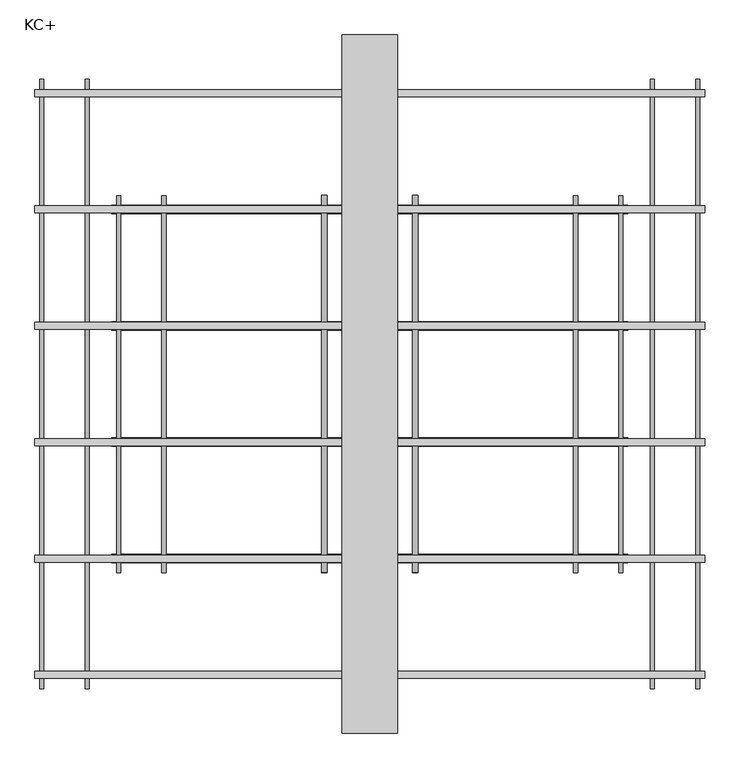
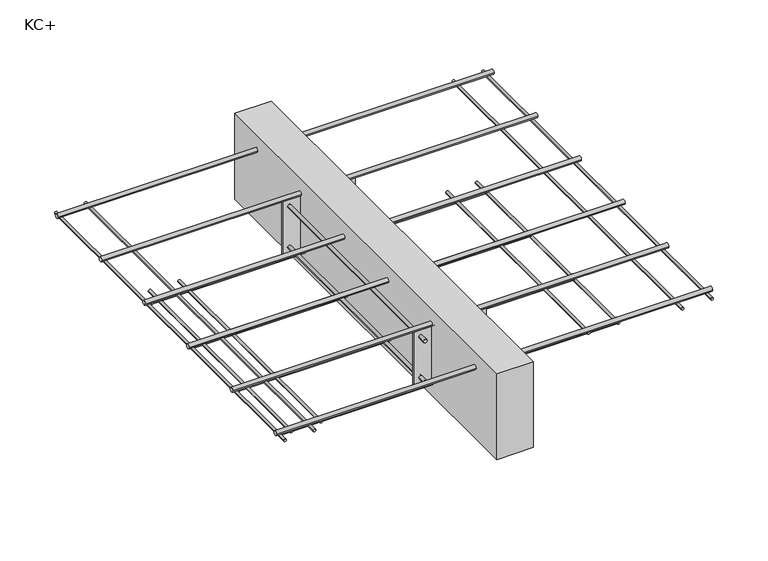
"""IFC4 building model written with IfcOpenShell, lengths in millimetres: fastener geometry, ACINOXplus_Typenreihe_K : KC+."""

import ifcopenshell
import ifcopenshell.guid

model = None  # the IFC model being written
_history = None  # IfcOwnerHistory: only IFC2X3 demands one
_inside = {}  # id of a spatial element -> (the spatial element, [elements in it])
_under = {}  # id of a project, library or spatial element -> (it, [spatial elements below it])
_declared = {}  # id of a project -> (the project, [libraries it declares])
_typed = {}  # id of a type object -> (the type object, [elements of that type])
_made_of = {}  # id of a material, layer set ... -> (it, [elements and type objects made of it])


def new_model(schema):
    """Start an empty IFC model of exactly this schema.

    Asked for "IFC4X3", IfcOpenShell would pick the latest addendum, in which some entities
    have other attributes; the version numbers below select the first issue.
    IFC2X3 requires an IfcOwnerHistory on every rooted entity: one is made here for all.
    """
    global model, _history
    if schema == "IFC4X3":
        model = ifcopenshell.file(schema_version=(4, 3, 0, 0))
    else:
        model = ifcopenshell.file(schema=schema)
    _inside.clear()
    _under.clear()
    _declared.clear()
    _typed.clear()
    _made_of.clear()
    _history = None
    if model.schema == "IFC2X3":
        org = make("IfcOrganization", Name="unknown")
        user = make(
            "IfcPersonAndOrganization",
            ThePerson=make("IfcPerson", FamilyName="unknown"),
            TheOrganization=org,
        )
        app = make(
            "IfcApplication",
            ApplicationDeveloper=org,
            Version="unknown",
            ApplicationFullName="unknown",
            ApplicationIdentifier="unknown",
        )
        _history = make(
            "IfcOwnerHistory",
            OwningUser=user,
            OwningApplication=app,
            ChangeAction="ADDED",
            CreationDate=0,
        )
    return model


def make(cls, **values):
    """One entity of the class cls with the attributes given. An attribute that is None is left unset."""
    return model.create_entity(
        cls, **{name: value for name, value in values.items() if value is not None}
    )


def rooted(cls, **values):
    """An entity with a GlobalId (a new one), such as an element, a storey or a relation."""
    return make(cls, GlobalId=ifcopenshell.guid.new(), OwnerHistory=_history, **values)


def si_unit(unit_type, name, prefix=None):
    """IfcSIUnit, for example si_unit("LENGTHUNIT", "METRE", prefix="MILLI")."""
    return make("IfcSIUnit", UnitType=unit_type, Prefix=prefix, Name=name)


def assignment(units):
    """IfcUnitAssignment: the units of a project."""
    return None if units is None else make("IfcUnitAssignment", Units=units)


def point(xyz):
    """IfcCartesianPoint."""
    return None if xyz is None else make("IfcCartesianPoint", Coordinates=xyz)


def direction(xyz):
    """IfcDirection."""
    return None if xyz is None else make("IfcDirection", DirectionRatios=xyz)


def frame(location, z_axis=None, x_axis=None):
    """IfcAxis2Placement3D, a coordinate frame: its origin and axes. An axis left out is left unset."""
    return make(
        "IfcAxis2Placement3D",
        Location=point(location),
        Axis=direction(z_axis),
        RefDirection=direction(x_axis),
    )


def frame_2d(location, x_axis=None):
    """IfcAxis2Placement2D, a coordinate frame in the plane: its origin and x axis."""
    return make(
        "IfcAxis2Placement2D", Location=point(location), RefDirection=direction(x_axis)
    )


def origin():
    """The frame at (0, 0, 0) with its axes left unset."""
    return frame((0.0, 0.0, 0.0))


def place(relative_to, where):
    """IfcLocalPlacement: puts the frame where relative to a parent placement (None: the world)."""
    return make(
        "IfcLocalPlacement", PlacementRelTo=relative_to, RelativePlacement=where
    )


def context(
    kind, dimensions, precision=None, world=None, true_north=None, identifier=None
):
    """IfcGeometricRepresentationContext, for example the 3D "Model" context."""
    return make(
        "IfcGeometricRepresentationContext",
        ContextIdentifier=identifier,
        ContextType=kind,
        CoordinateSpaceDimension=dimensions,
        Precision=precision,
        WorldCoordinateSystem=world,
        TrueNorth=true_north,
    )


def project(units=None, contexts=None):
    """IfcProject with its units and contexts."""
    return rooted(
        "IfcProject",
        Name="project",
        RepresentationContexts=contexts,
        UnitsInContext=assignment(units),
    )


def spatial(cls, under=None, at=None, **own):
    """A site, building, storey or space (cls), placed at a placement, below another one or the project."""
    s = rooted(cls, ObjectPlacement=at, **own)
    if under is not None:
        _under.setdefault(under.id(), (under, []))[1].append(s)
    return s


def polyline(points):
    """IfcPolyline through the points."""
    return make("IfcPolyline", Points=[point(p) for p in points])


def circle_curve(where, radius):
    """IfcCircle in the frame where."""
    return make("IfcCircle", Position=where, Radius=radius)


def trimmed(basis, trim1, trim2, sense, master):
    """IfcTrimmedCurve: the piece of a basis curve between two trims."""
    return make(
        "IfcTrimmedCurve",
        BasisCurve=basis,
        Trim1=trim1,
        Trim2=trim2,
        SenseAgreement=sense,
        MasterRepresentation=master,
    )


def segment(curve, same_sense, transition):
    """IfcCompositeCurveSegment."""
    return make(
        "IfcCompositeCurveSegment",
        Transition=transition,
        SameSense=same_sense,
        ParentCurve=curve,
    )


def composite_curve(segments, self_intersect=None):
    """IfcCompositeCurve: segments joined end to end."""
    return make("IfcCompositeCurve", Segments=segments, SelfIntersect=self_intersect)


def outline(outer, holes=None, kind="AREA"):
    """IfcArbitraryClosedProfileDef: a profile drawn as a closed curve; with holes, ...WithVoids."""
    if holes is None:
        return make("IfcArbitraryClosedProfileDef", ProfileType=kind, OuterCurve=outer)
    return make(
        "IfcArbitraryProfileDefWithVoids",
        ProfileType=kind,
        OuterCurve=outer,
        InnerCurves=holes,
    )


def extrude(swept, where, along, depth):
    """IfcExtrudedAreaSolid: the profile swept, set in the frame where, extruded along a direction by depth."""
    return make(
        "IfcExtrudedAreaSolid",
        SweptArea=swept,
        Position=where,
        ExtrudedDirection=direction(along),
        Depth=depth,
    )


def shape(context_of_items, identifier, shape_type, items):
    """IfcShapeRepresentation: the items that make up one representation, for example the "Body"."""
    return make(
        "IfcShapeRepresentation",
        ContextOfItems=context_of_items,
        RepresentationIdentifier=identifier,
        RepresentationType=shape_type,
        Items=items,
    )


def source(mapping_origin, context_of_items, identifier, shape_type, items):
    """IfcRepresentationMap: a shape defined once, which mapped items show again and again."""
    return make(
        "IfcRepresentationMap",
        MappingOrigin=mapping_origin,
        MappedRepresentation=shape(context_of_items, identifier, shape_type, items),
    )


def transform(
    local_origin,
    x_axis=None,
    y_axis=None,
    z_axis=None,
    scale=None,
    scale2=None,
    scale3=None,
    uniform=True,
):
    """IfcCartesianTransformationOperator3D, or its non-uniform kind. x_axis, y_axis, z_axis: its Axis1, 2, 3."""
    if uniform:
        return make(
            "IfcCartesianTransformationOperator3D",
            Axis1=direction(x_axis),
            Axis2=direction(y_axis),
            LocalOrigin=point(local_origin),
            Scale=scale,
            Axis3=direction(z_axis),
        )
    return make(
        "IfcCartesianTransformationOperator3DnonUniform",
        Axis1=direction(x_axis),
        Axis2=direction(y_axis),
        LocalOrigin=point(local_origin),
        Scale=scale,
        Axis3=direction(z_axis),
        Scale2=scale2,
        Scale3=scale3,
    )


def mapped(mapping_source, mapping_target):
    """IfcMappedItem: shows the shape of a source again, moved by a transform."""
    return make(
        "IfcMappedItem", MappingSource=mapping_source, MappingTarget=mapping_target
    )


def made_of(thing, what):
    """Note that an element or type object is made of a material, layer set ...; save() writes the relation."""
    if what is not None:
        _made_of.setdefault(what.id(), (what, []))[1].append(thing)
    return thing


def element(
    cls,
    number,
    at=None,
    inside=None,
    cuts=None,
    type_object=None,
    material=None,
    context=None,
    identifier="Body",
    shape_type=None,
    held_by="IfcProductDefinitionShape",
    body=None,
    shapes=None,
    **own,
):
    """One element of the class cls, such as IfcWall. Its Tag is "e" and its number.

    at: its placement. inside: the storey or other place that contains it. cuts: it is an
    opening in that element (IfcRelVoidsElement). A single representation is given by context,
    identifier, shape_type and body (its items); several are given by shapes. held_by: the class
    of the entity that holds the representations. save() writes the other relations.
    """
    e = rooted(cls, Tag="e%d" % number, ObjectPlacement=at, **own)
    if body is not None:
        shapes = [shape(context, identifier, shape_type, body)]
    if shapes is not None:
        e.Representation = make(held_by, Representations=shapes)
    if inside is not None:
        _inside.setdefault(inside.id(), (inside, []))[1].append(e)
    if cuts is not None:
        rooted(
            "IfcRelVoidsElement", RelatingBuildingElement=cuts, RelatedOpeningElement=e
        )
    if type_object is not None:
        _typed.setdefault(type_object.id(), (type_object, []))[1].append(e)
    return made_of(e, material)


def aggregate(whole, parts):
    """IfcRelAggregates: a whole, such as a stair, and the parts it consists of."""
    return rooted("IfcRelAggregates", RelatingObject=whole, RelatedObjects=parts)


def save(model, path):
    """Write the relations noted so far, then the file.

    IfcRelAggregates (storeys below a building ...), IfcRelContainedInSpatialStructure (elements
    in a storey), IfcRelDefinesByType, IfcRelAssociatesMaterial and IfcRelDeclares: one each for
    every whole, place, type object, material and project.
    """
    for whole, parts in _under.values():
        aggregate(whole, parts)
    for where, things in _inside.values():
        rooted(
            "IfcRelContainedInSpatialStructure",
            RelatedElements=things,
            RelatingStructure=where,
        )
    for kind, things in _typed.values():
        rooted("IfcRelDefinesByType", RelatedObjects=things, RelatingType=kind)
    for what, things in _made_of.values():
        rooted("IfcRelAssociatesMaterial", RelatedObjects=things, RelatingMaterial=what)
    for by, libraries in _declared.values():
        rooted("IfcRelDeclares", RelatingContext=by, RelatedDefinitions=libraries)
    model.write(path)


def kc_55e3709e(model_context):
    return source(origin(), model_context, "Body", "SweptSolid", [
        extrude(outline(polyline([(40.0, 500.0), (40.0, -500.0), (-40.0, -500.0), (-40.0, 500.0), (40.0, 500.0)])), frame((0.0, 0.0, -200.0), z_axis=(0.0, 0.0, 1.0), x_axis=(1.0, 0.0, 0.0)), (0.0, 0.0, 1.0), 200.0),
        extrude(outline(polyline([(80.0, -248.5), (80.0, -251.5), (-80.0, -251.5), (-80.0, -248.5), (80.0, -248.5)])), frame((0.0, 0.0, -165.0), z_axis=(0.0, 0.0, 1.0), x_axis=(1.0, 0.0, 0.0)), (0.0, 0.0, 1.0), 125.0),
        extrude(outline(polyline([(80.0, 251.5), (80.0, 248.5), (-80.0, 248.5), (-80.0, 251.5), (80.0, 251.5)])), frame((0.0, 0.0, -165.0), z_axis=(0.0, 0.0, 1.0), x_axis=(1.0, 0.0, 0.0)), (0.0, 0.0, 1.0), 125.0),
        extrude(outline(composite_curve([segment(trimmed(circle_curve(frame_2d((-150.0, -65.0)), 4.0), [point((-150.0, -61.0))], [point((-150.0, -69.0))], False, "CARTESIAN"), True, "CONTINUOUS"), segment(trimmed(circle_curve(frame_2d((-150.0, -65.0)), 4.0), [point((-150.0, -69.0))], [point((-150.0, -61.0))], False, "CARTESIAN"), True, "CONTINUOUS")], self_intersect=False)), frame((0.0, -270.0, 0.0), z_axis=(0.0, 1.0, 0.0), x_axis=(0.0, 0.0, 1.0)), (0.0, 0.0, 1.0), 18.5),
        extrude(outline(composite_curve([segment(trimmed(circle_curve(frame_2d((-150.0, -65.0)), 4.0), [point((-150.0, -69.0))], [point((-150.0, -61.0))], False, "CARTESIAN"), True, "CONTINUOUS"), segment(trimmed(circle_curve(frame_2d((-150.0, -65.0)), 4.0), [point((-150.0, -61.0))], [point((-150.0, -69.0))], False, "CARTESIAN"), True, "CONTINUOUS")], self_intersect=False)), frame((0.0, -248.5, 0.0), z_axis=(0.0, 1.0, 0.0), x_axis=(0.0, 0.0, 1.0)), (0.0, 0.0, 1.0), 497.0),
        extrude(outline(composite_curve([segment(trimmed(circle_curve(frame_2d((-150.0, -65.0)), 4.0), [point((-150.0, -69.0))], [point((-150.0, -61.0))], False, "CARTESIAN"), True, "CONTINUOUS"), segment(trimmed(circle_curve(frame_2d((-150.0, -65.0)), 4.0), [point((-150.0, -61.0))], [point((-150.0, -69.0))], False, "CARTESIAN"), True, "CONTINUOUS")], self_intersect=False)), frame((0.0, 251.5, 0.0), z_axis=(0.0, 1.0, 0.0), x_axis=(0.0, 0.0, 1.0)), (0.0, 0.0, 1.0), 18.5),
        extrude(outline(composite_curve([segment(trimmed(circle_curve(frame_2d((-150.0, 65.0)), 4.0), [point((-150.0, 69.0))], [point((-150.0, 61.0))], False, "CARTESIAN"), True, "CONTINUOUS"), segment(trimmed(circle_curve(frame_2d((-150.0, 65.0)), 4.0), [point((-150.0, 61.0))], [point((-150.0, 69.0))], False, "CARTESIAN"), True, "CONTINUOUS")], self_intersect=False)), frame((0.0, -270.0, 0.0), z_axis=(0.0, 1.0, 0.0), x_axis=(0.0, 0.0, 1.0)), (0.0, 0.0, 1.0), 18.5),
        extrude(outline(composite_curve([segment(trimmed(circle_curve(frame_2d((-150.0, 65.0)), 4.0), [point((-150.0, 61.0))], [point((-150.0, 69.0))], False, "CARTESIAN"), True, "CONTINUOUS"), segment(trimmed(circle_curve(frame_2d((-150.0, 65.0)), 4.0), [point((-150.0, 69.0))], [point((-150.0, 61.0))], False, "CARTESIAN"), True, "CONTINUOUS")], self_intersect=False)), frame((0.0, -248.5, 0.0), z_axis=(0.0, 1.0, 0.0), x_axis=(0.0, 0.0, 1.0)), (0.0, 0.0, 1.0), 497.0),
        extrude(outline(composite_curve([segment(trimmed(circle_curve(frame_2d((-150.0, 65.0)), 4.0), [point((-150.0, 61.0))], [point((-150.0, 69.0))], False, "CARTESIAN"), True, "CONTINUOUS"), segment(trimmed(circle_curve(frame_2d((-150.0, 65.0)), 4.0), [point((-150.0, 69.0))], [point((-150.0, 61.0))], False, "CARTESIAN"), True, "CONTINUOUS")], self_intersect=False)), frame((0.0, 251.5, 0.0), z_axis=(0.0, 1.0, 0.0), x_axis=(0.0, 0.0, 1.0)), (0.0, 0.0, 1.0), 18.5),
        extrude(outline(composite_curve([segment(trimmed(circle_curve(frame_2d((-55.0, -65.0)), 4.0), [point((-55.0, -61.0))], [point((-55.0, -69.0))], False, "CARTESIAN"), True, "CONTINUOUS"), segment(trimmed(circle_curve(frame_2d((-55.0, -65.0)), 4.0), [point((-55.0, -69.0))], [point((-55.0, -61.0))], False, "CARTESIAN"), True, "CONTINUOUS")], self_intersect=False)), frame((0.0, -270.0, 0.0), z_axis=(0.0, 1.0, 0.0), x_axis=(0.0, 0.0, 1.0)), (0.0, 0.0, 1.0), 18.5),
        extrude(outline(composite_curve([segment(trimmed(circle_curve(frame_2d((-55.0, -65.0)), 4.0), [point((-55.0, -69.0))], [point((-55.0, -61.0))], False, "CARTESIAN"), True, "CONTINUOUS"), segment(trimmed(circle_curve(frame_2d((-55.0, -65.0)), 4.0), [point((-55.0, -61.0))], [point((-55.0, -69.0))], False, "CARTESIAN"), True, "CONTINUOUS")], self_intersect=False)), frame((0.0, -248.5, 0.0), z_axis=(0.0, 1.0, 0.0), x_axis=(0.0, 0.0, 1.0)), (0.0, 0.0, 1.0), 497.0),
        extrude(outline(composite_curve([segment(trimmed(circle_curve(frame_2d((-55.0, -65.0)), 4.0), [point((-55.0, -69.0))], [point((-55.0, -61.0))], False, "CARTESIAN"), True, "CONTINUOUS"), segment(trimmed(circle_curve(frame_2d((-55.0, -65.0)), 4.0), [point((-55.0, -61.0))], [point((-55.0, -69.0))], False, "CARTESIAN"), True, "CONTINUOUS")], self_intersect=False)), frame((0.0, 251.5, 0.0), z_axis=(0.0, 1.0, 0.0), x_axis=(0.0, 0.0, 1.0)), (0.0, 0.0, 1.0), 18.5),
        extrude(outline(composite_curve([segment(trimmed(circle_curve(frame_2d((-55.0, 65.0)), 4.0), [point((-55.0, 69.0))], [point((-55.0, 61.0))], False, "CARTESIAN"), True, "CONTINUOUS"), segment(trimmed(circle_curve(frame_2d((-55.0, 65.0)), 4.0), [point((-55.0, 61.0))], [point((-55.0, 69.0))], False, "CARTESIAN"), True, "CONTINUOUS")], self_intersect=False)), frame((0.0, -270.0, 0.0), z_axis=(0.0, 1.0, 0.0), x_axis=(0.0, 0.0, 1.0)), (0.0, 0.0, 1.0), 18.5),
        extrude(outline(composite_curve([segment(trimmed(circle_curve(frame_2d((-55.0, 65.0)), 4.0), [point((-55.0, 61.0))], [point((-55.0, 69.0))], False, "CARTESIAN"), True, "CONTINUOUS"), segment(trimmed(circle_curve(frame_2d((-55.0, 65.0)), 4.0), [point((-55.0, 69.0))], [point((-55.0, 61.0))], False, "CARTESIAN"), True, "CONTINUOUS")], self_intersect=False)), frame((0.0, -248.5, 0.0), z_axis=(0.0, 1.0, 0.0), x_axis=(0.0, 0.0, 1.0)), (0.0, 0.0, 1.0), 497.0),
        extrude(outline(composite_curve([segment(trimmed(circle_curve(frame_2d((-55.0, 65.0)), 4.0), [point((-55.0, 61.0))], [point((-55.0, 69.0))], False, "CARTESIAN"), True, "CONTINUOUS"), segment(trimmed(circle_curve(frame_2d((-55.0, 65.0)), 4.0), [point((-55.0, 69.0))], [point((-55.0, 61.0))], False, "CARTESIAN"), True, "CONTINUOUS")], self_intersect=False)), frame((0.0, 251.5, 0.0), z_axis=(0.0, 1.0, 0.0), x_axis=(0.0, 0.0, 1.0)), (0.0, 0.0, 1.0), 18.5),
        extrude(outline(composite_curve([segment(trimmed(circle_curve(frame_2d((83.3333333, -171.0)), 6.0), [point((77.3333333, -171.0))], [point((89.3333333, -171.0))], False, "CARTESIAN"), True, "CONTINUOUS"), segment(trimmed(circle_curve(frame_2d((83.3333333, -171.0)), 6.0), [point((89.3333333, -171.0))], [point((77.3333333, -171.0))], False, "CARTESIAN"), True, "CONTINUOUS")], self_intersect=False)), frame((-370.0, 0.0, 0.0), z_axis=(1.0, 0.0, 0.0), x_axis=(0.0, 1.0, 0.0)), (0.0, 0.0, 1.0), 740.0),
        extrude(outline(composite_curve([segment(trimmed(circle_curve(frame_2d((-83.3333333, -171.0)), 6.0), [point((-89.3333333, -171.0))], [point((-77.3333333, -171.0))], False, "CARTESIAN"), True, "CONTINUOUS"), segment(trimmed(circle_curve(frame_2d((-83.3333333, -171.0)), 6.0), [point((-77.3333333, -171.0))], [point((-89.3333333, -171.0))], False, "CARTESIAN"), True, "CONTINUOUS")], self_intersect=False)), frame((-370.0, 0.0, 0.0), z_axis=(1.0, 0.0, 0.0), x_axis=(0.0, 1.0, 0.0)), (0.0, 0.0, 1.0), 740.0),
        extrude(outline(composite_curve([segment(trimmed(circle_curve(frame_2d((250.0, -171.0)), 6.0), [point((244.0, -171.0))], [point((256.0, -171.0))], False, "CARTESIAN"), True, "CONTINUOUS"), segment(trimmed(circle_curve(frame_2d((250.0, -171.0)), 6.0), [point((256.0, -171.0))], [point((244.0, -171.0))], False, "CARTESIAN"), True, "CONTINUOUS")], self_intersect=False)), frame((-370.0, 0.0, 0.0), z_axis=(1.0, 0.0, 0.0), x_axis=(0.0, 1.0, 0.0)), (0.0, 0.0, 1.0), 740.0),
        extrude(outline(composite_curve([segment(trimmed(circle_curve(frame_2d((-250.0, -171.0)), 6.0), [point((-256.0, -171.0))], [point((-244.0, -171.0))], False, "CARTESIAN"), True, "CONTINUOUS"), segment(trimmed(circle_curve(frame_2d((-250.0, -171.0)), 6.0), [point((-244.0, -171.0))], [point((-256.0, -171.0))], False, "CARTESIAN"), True, "CONTINUOUS")], self_intersect=False)), frame((-370.0, 0.0, 0.0), z_axis=(1.0, 0.0, 0.0), x_axis=(0.0, 1.0, 0.0)), (0.0, 0.0, 1.0), 740.0),
        extrude(outline(composite_curve([segment(trimmed(circle_curve(frame_2d((83.3333333, -35.0)), 5.0), [point((78.3333333, -35.0))], [point((88.3333333, -35.0))], False, "CARTESIAN"), True, "CONTINUOUS"), segment(trimmed(circle_curve(frame_2d((83.3333333, -35.0)), 5.0), [point((88.3333333, -35.0))], [point((78.3333333, -35.0))], False, "CARTESIAN"), True, "CONTINUOUS")], self_intersect=False)), frame((-480.0, 0.0, 0.0), z_axis=(1.0, 0.0, 0.0), x_axis=(0.0, 1.0, 0.0)), (0.0, 0.0, 1.0), 960.0),
        extrude(outline(composite_curve([segment(trimmed(circle_curve(frame_2d((-83.3333333, -35.0)), 5.0), [point((-88.3333333, -35.0))], [point((-78.3333333, -35.0))], False, "CARTESIAN"), True, "CONTINUOUS"), segment(trimmed(circle_curve(frame_2d((-83.3333333, -35.0)), 5.0), [point((-78.3333333, -35.0))], [point((-88.3333333, -35.0))], False, "CARTESIAN"), True, "CONTINUOUS")], self_intersect=False)), frame((-480.0, 0.0, 0.0), z_axis=(1.0, 0.0, 0.0), x_axis=(0.0, 1.0, 0.0)), (0.0, 0.0, 1.0), 960.0),
        extrude(outline(composite_curve([segment(trimmed(circle_curve(frame_2d((250.0, -35.0)), 5.0), [point((245.0, -35.0))], [point((255.0, -35.0))], False, "CARTESIAN"), True, "CONTINUOUS"), segment(trimmed(circle_curve(frame_2d((250.0, -35.0)), 5.0), [point((255.0, -35.0))], [point((245.0, -35.0))], False, "CARTESIAN"), True, "CONTINUOUS")], self_intersect=False)), frame((-480.0, 0.0, 0.0), z_axis=(1.0, 0.0, 0.0), x_axis=(0.0, 1.0, 0.0)), (0.0, 0.0, 1.0), 960.0),
        extrude(outline(composite_curve([segment(trimmed(circle_curve(frame_2d((416.6666667, -35.0)), 5.0), [point((411.6666667, -35.0))], [point((421.6666667, -35.0))], False, "CARTESIAN"), True, "CONTINUOUS"), segment(trimmed(circle_curve(frame_2d((416.6666667, -35.0)), 5.0), [point((421.6666667, -35.0))], [point((411.6666667, -35.0))], False, "CARTESIAN"), True, "CONTINUOUS")], self_intersect=False)), frame((-480.0, 0.0, 0.0), z_axis=(1.0, 0.0, 0.0), x_axis=(0.0, 1.0, 0.0)), (0.0, 0.0, 1.0), 960.0),
        extrude(outline(composite_curve([segment(trimmed(circle_curve(frame_2d((-250.0, -35.0)), 5.0), [point((-255.0, -35.0))], [point((-245.0, -35.0))], False, "CARTESIAN"), True, "CONTINUOUS"), segment(trimmed(circle_curve(frame_2d((-250.0, -35.0)), 5.0), [point((-245.0, -35.0))], [point((-255.0, -35.0))], False, "CARTESIAN"), True, "CONTINUOUS")], self_intersect=False)), frame((-480.0, 0.0, 0.0), z_axis=(1.0, 0.0, 0.0), x_axis=(0.0, 1.0, 0.0)), (0.0, 0.0, 1.0), 960.0),
        extrude(outline(composite_curve([segment(trimmed(circle_curve(frame_2d((-416.6666667, -35.0)), 5.0), [point((-421.6666667, -35.0))], [point((-411.6666667, -35.0))], False, "CARTESIAN"), True, "CONTINUOUS"), segment(trimmed(circle_curve(frame_2d((-416.6666667, -35.0)), 5.0), [point((-411.6666667, -35.0))], [point((-421.6666667, -35.0))], False, "CARTESIAN"), True, "CONTINUOUS")], self_intersect=False)), frame((-480.0, 0.0, 0.0), z_axis=(1.0, 0.0, 0.0), x_axis=(0.0, 1.0, 0.0)), (0.0, 0.0, 1.0), 960.0),
        extrude(outline(composite_curve([segment(trimmed(circle_curve(frame_2d((-162.0, -360.0)), 3.0), [point((-162.0, -357.0))], [point((-162.0, -363.0))], False, "CARTESIAN"), True, "CONTINUOUS"), segment(trimmed(circle_curve(frame_2d((-162.0, -360.0)), 3.0), [point((-162.0, -363.0))], [point((-162.0, -357.0))], False, "CARTESIAN"), True, "CONTINUOUS")], self_intersect=False)), frame((0.0, -270.0, 0.0), z_axis=(0.0, 1.0, 0.0), x_axis=(0.0, 0.0, 1.0)), (0.0, 0.0, 1.0), 540.0),
        extrude(outline(composite_curve([segment(trimmed(circle_curve(frame_2d((-162.0, -295.0)), 3.0), [point((-162.0, -292.0))], [point((-162.0, -298.0))], False, "CARTESIAN"), True, "CONTINUOUS"), segment(trimmed(circle_curve(frame_2d((-162.0, -295.0)), 3.0), [point((-162.0, -298.0))], [point((-162.0, -292.0))], False, "CARTESIAN"), True, "CONTINUOUS")], self_intersect=False)), frame((0.0, -270.0, 0.0), z_axis=(0.0, 1.0, 0.0), x_axis=(0.0, 0.0, 1.0)), (0.0, 0.0, 1.0), 540.0),
        extrude(outline(composite_curve([segment(trimmed(circle_curve(frame_2d((-162.0, 295.0)), 3.0), [point((-162.0, 298.0))], [point((-162.0, 292.0))], False, "CARTESIAN"), True, "CONTINUOUS"), segment(trimmed(circle_curve(frame_2d((-162.0, 295.0)), 3.0), [point((-162.0, 292.0))], [point((-162.0, 298.0))], False, "CARTESIAN"), True, "CONTINUOUS")], self_intersect=False)), frame((0.0, -270.0, 0.0), z_axis=(0.0, 1.0, 0.0), x_axis=(0.0, 0.0, 1.0)), (0.0, 0.0, 1.0), 540.0),
        extrude(outline(composite_curve([segment(trimmed(circle_curve(frame_2d((-162.0, 360.0)), 3.0), [point((-162.0, 363.0))], [point((-162.0, 357.0))], False, "CARTESIAN"), True, "CONTINUOUS"), segment(trimmed(circle_curve(frame_2d((-162.0, 360.0)), 3.0), [point((-162.0, 357.0))], [point((-162.0, 363.0))], False, "CARTESIAN"), True, "CONTINUOUS")], self_intersect=False)), frame((0.0, -270.0, 0.0), z_axis=(0.0, 1.0, 0.0), x_axis=(0.0, 0.0, 1.0)), (0.0, 0.0, 1.0), 540.0),
        extrude(outline(composite_curve([segment(trimmed(circle_curve(frame_2d((-43.0, 405.0)), 3.0), [point((-43.0, 408.0))], [point((-43.0, 402.0))], False, "CARTESIAN"), True, "CONTINUOUS"), segment(trimmed(circle_curve(frame_2d((-43.0, 405.0)), 3.0), [point((-43.0, 402.0))], [point((-43.0, 408.0))], False, "CARTESIAN"), True, "CONTINUOUS")], self_intersect=False)), frame((0.0, -436.6666667, 0.0), z_axis=(0.0, 1.0, 0.0), x_axis=(0.0, 0.0, 1.0)), (0.0, 0.0, 1.0), 873.3333333),
        extrude(outline(composite_curve([segment(trimmed(circle_curve(frame_2d((-43.0, 470.0)), 3.0), [point((-43.0, 473.0))], [point((-43.0, 467.0))], False, "CARTESIAN"), True, "CONTINUOUS"), segment(trimmed(circle_curve(frame_2d((-43.0, 470.0)), 3.0), [point((-43.0, 467.0))], [point((-43.0, 473.0))], False, "CARTESIAN"), True, "CONTINUOUS")], self_intersect=False)), frame((0.0, -436.6666667, 0.0), z_axis=(0.0, 1.0, 0.0), x_axis=(0.0, 0.0, 1.0)), (0.0, 0.0, 1.0), 873.3333333),
        extrude(outline(composite_curve([segment(trimmed(circle_curve(frame_2d((-43.0, -470.0)), 3.0), [point((-43.0, -467.0))], [point((-43.0, -473.0))], False, "CARTESIAN"), True, "CONTINUOUS"), segment(trimmed(circle_curve(frame_2d((-43.0, -470.0)), 3.0), [point((-43.0, -473.0))], [point((-43.0, -467.0))], False, "CARTESIAN"), True, "CONTINUOUS")], self_intersect=False)), frame((0.0, -436.6666667, 0.0), z_axis=(0.0, 1.0, 0.0), x_axis=(0.0, 0.0, 1.0)), (0.0, 0.0, 1.0), 873.3333333),
        extrude(outline(composite_curve([segment(trimmed(circle_curve(frame_2d((-43.0, -405.0)), 3.0), [point((-43.0, -402.0))], [point((-43.0, -408.0))], False, "CARTESIAN"), True, "CONTINUOUS"), segment(trimmed(circle_curve(frame_2d((-43.0, -405.0)), 3.0), [point((-43.0, -408.0))], [point((-43.0, -402.0))], False, "CARTESIAN"), True, "CONTINUOUS")], self_intersect=False)), frame((0.0, -436.6666667, 0.0), z_axis=(0.0, 1.0, 0.0), x_axis=(0.0, 0.0, 1.0)), (0.0, 0.0, 1.0), 873.3333333),
    ])


if __name__ == "__main__":
    model = new_model("IFC4")
    model_context = context("Model", 3, world=origin())
    ifc_project = project(units=[si_unit("LENGTHUNIT", "METRE", prefix="MILLI")], contexts=[model_context])
    site = spatial("IfcSite", under=ifc_project)
    building = spatial("IfcBuilding", under=site)
    placement = place(None, origin())
    kc_shape = kc_55e3709e(model_context)
    element("IfcFastener", 1, ObjectType="ACINOXplus_Typenreihe_K : KC+", at=placement, inside=building, context=model_context, shape_type="MappedRepresentation", body=[
        mapped(kc_shape, transform((0.0, 0.0, 0.0), x_axis=(1.0, 0.0, 0.0), y_axis=(0.0, 1.0, 0.0), z_axis=(0.0, 0.0, 1.0))),
    ])
    save(model, "model.ifc")
